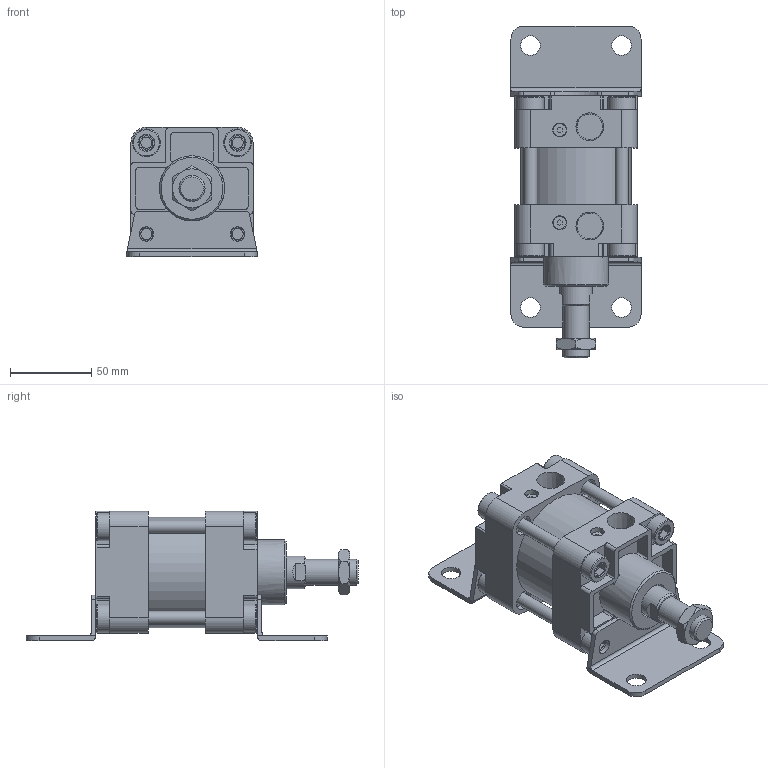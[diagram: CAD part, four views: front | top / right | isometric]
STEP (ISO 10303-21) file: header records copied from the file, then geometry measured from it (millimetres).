
FILE_DESCRIPTION(/* description */ ('Unknown'),/* implementation_level */ '2;1');
FILE_NAME(/* name */ 'WA63-0-LB',/* time_stamp */ '2026-07-17T16:54:09+08:00',/* author */ ('Unknown'),/* organization */ ('Unknown'),/* preprocessor_version */ 'ST-DEVELOPER v16.7',/* originating_system */ 'DEX',/* authorisation */ $);
FILE_SCHEMA (('CONFIG_CONTROL_DESIGN'));
Length unit declared in the file: millimetre
Products named in the file (8): WA63-0-LB; WA63_後; WA63_心軸活; WA63_鋁; WA63_前; WA63_LB; WA63_T帽牙; M16-1.5P-8_螺
Assembly tree (11 placements, depth 2):
  WA63-0-LB
    WA63_後
    WA63_心軸活
    WA63_鋁
    WA63_前
    WA63_LB  x2
    WA63_T帽牙  x4
    M16-1.5P-8_螺
Bounding box: 80 x 204 x 79.5 mm (x, y, z)
Volume: 489344.8 mm3; surface area: 136290.4 mm2
Topology: 11 solids, 11 shells, 410 faces, 1004 edges, 673 vertices
Faces by surface type: plane 227, cylinder 146, cone 29, torus 8
Full cylindrical faces by diameter (mm): 6.8 x8, 8 x6, 8.5 x2, 9 x4, 12 x12, 12.5 x8, 14.5 x1, 15.806 x2, 16 x1, 17 x8, 20 x2, 40 x1, 62.5 x1, 63 x3, 68 x1
Entity records: 10109 total; most frequent: CARTESIAN_POINT 1493, DIRECTION 1466, ORIENTED_EDGE 1294, EDGE_CURVE 647, AXIS2_PLACEMENT_3D 554, VERTEX_POINT 453, EDGE_LOOP 384, FACE_BOUND 384
